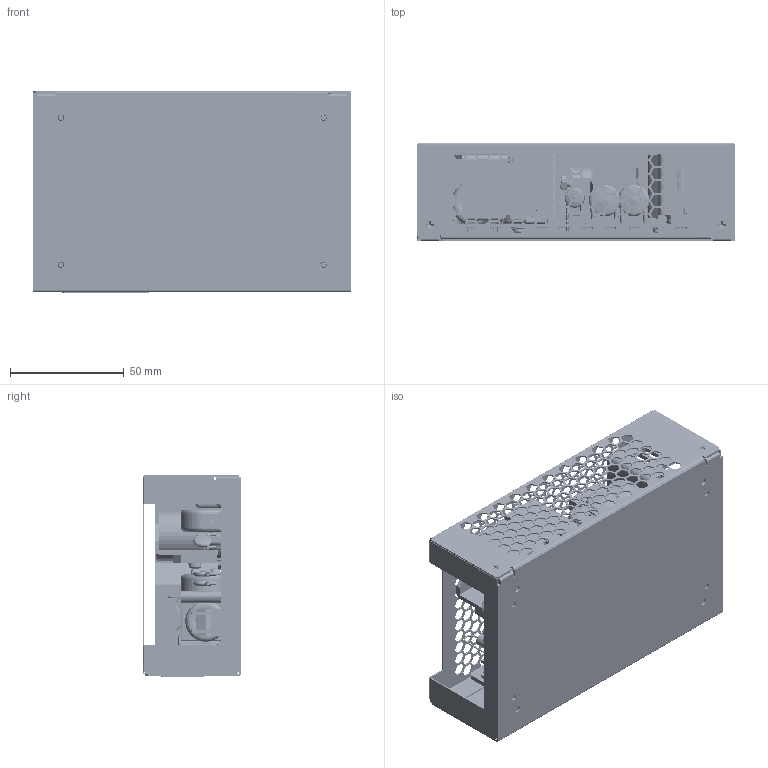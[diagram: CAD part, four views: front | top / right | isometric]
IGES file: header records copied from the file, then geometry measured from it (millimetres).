
Start section: SolidWorks IGES file using analytic representation for surfaces
Global section: file name: G:\USER\Common for ENG DEPT\TO Jayesh Patel\GCS180-C\GCS180PSXX WITH COVER.IGS; native system: SolidWorks 2012; preprocessor: SolidWorks 2012; author: KEVYOU; date: 130711.152825; units: inch
Bounding box: 139.7 x 43.18 x 88.6 mm (x, y, z)
Surface area: 178498.5 mm2 (no closed solid volume)
Topology: 0 solids, 0 shells, 6692 faces, 59862 edges, 59778 vertices
Faces by surface type: bspline 4959, revolution 1733
